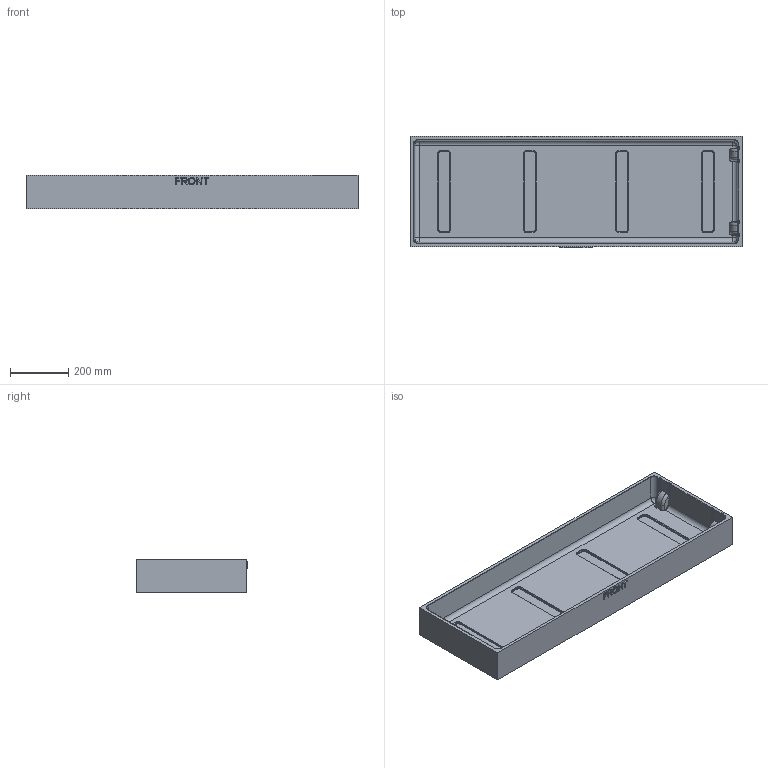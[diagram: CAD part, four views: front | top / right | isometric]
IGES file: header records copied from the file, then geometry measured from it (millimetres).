
Start section: Comment
Global section: file name: 3200-base_internal_tub.igs; native system:  By UGS Corp.; preprocessor: XPlus GENERIC/IGES 3.0; author: Author; organization: Title; date: 20100514.162132; units: millimetre
Bounding box: 1143 x 384.18 x 114.3 mm (x, y, z)
Surface area: 1503717.2 mm2 (no closed solid volume)
Topology: 0 solids, 0 shells, 341 faces, 1800 edges, 1784 vertices
Faces by surface type: bspline 341
